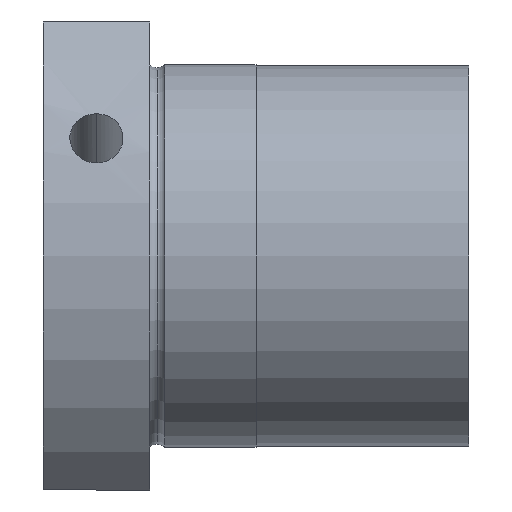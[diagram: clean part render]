
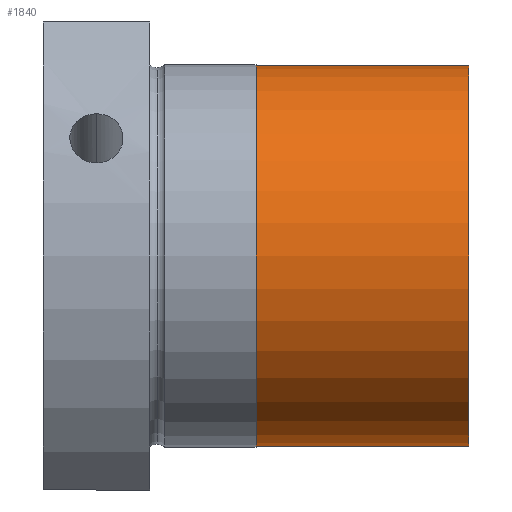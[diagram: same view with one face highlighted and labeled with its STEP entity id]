
A CAD part, front view. The second image highlights one B-rep face of the part: STEP entity #1840.
In plain terms, the highlighted cylindrical face has radius 17.9 mm (diameter 35.8 mm), a partial arc.
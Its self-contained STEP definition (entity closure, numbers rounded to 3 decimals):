
#88 = ORIENTED_EDGE ( 'NONE', *, *, #1490, .F. ) ;
#161 = VECTOR ( 'NONE', #265, 1000. ) ;
#262 = CARTESIAN_POINT ( 'NONE',  ( 0.111, 0., 17.9 ) ) ;
#265 = DIRECTION ( 'NONE',  ( -1., 0., 0. ) ) ;
#455 = VERTEX_POINT ( 'NONE', #1098 ) ;
#473 = DIRECTION ( 'NONE',  ( -1., 0., 0. ) ) ;
#485 = CARTESIAN_POINT ( 'NONE',  ( 20.111, 0., 17.9 ) ) ;
#514 = CARTESIAN_POINT ( 'NONE',  ( -100.792, 0., 17.9 ) ) ;
#679 = DIRECTION ( 'NONE',  ( -1., 0., 0. ) ) ;
#700 = DIRECTION ( 'NONE',  ( 0., 0., 1. ) ) ;
#708 = EDGE_CURVE ( 'NONE', #2669, #2745, #2649, .T. ) ;
#1098 = CARTESIAN_POINT ( 'NONE',  ( 0.111, 0., -17.9 ) ) ;
#1167 = DIRECTION ( 'NONE',  ( -1., 0., 0. ) ) ;
#1201 = VECTOR ( 'NONE', #2359, 1000. ) ;
#1376 = ORIENTED_EDGE ( 'NONE', *, *, #2389, .F. ) ;
#1452 = EDGE_CURVE ( 'NONE', #2353, #2669, #1878, .T. ) ;
#1462 = ORIENTED_EDGE ( 'NONE', *, *, #1452, .T. ) ;
#1490 = EDGE_CURVE ( 'NONE', #2353, #455, #1814, .T. ) ;
#1644 = CARTESIAN_POINT ( 'NONE',  ( -100.792, 0., 0. ) ) ;
#1647 = CARTESIAN_POINT ( 'NONE',  ( 20.111, 0., -17.9 ) ) ;
#1667 = CARTESIAN_POINT ( 'NONE',  ( -100.792, 0., -17.9 ) ) ;
#1672 = CYLINDRICAL_SURFACE ( 'NONE', #2802, 17.9 ) ;
#1676 = ORIENTED_EDGE ( 'NONE', *, *, #708, .T. ) ;
#1814 = LINE ( 'NONE', #1667, #1201 ) ;
#1840 = ADVANCED_FACE ( 'NONE', ( #2987 ), #1672, .T. ) ;
#1878 = CIRCLE ( 'NONE', #1901, 17.9 ) ;
#1880 = CARTESIAN_POINT ( 'NONE',  ( 20.111, 0., 0. ) ) ;
#1901 = AXIS2_PLACEMENT_3D ( 'NONE', #1880, #473, #2115 ) ;
#2104 = EDGE_LOOP ( 'NONE', ( #88, #1462, #1676, #1376 ) ) ;
#2115 = DIRECTION ( 'NONE',  ( 0., 0., 1. ) ) ;
#2353 = VERTEX_POINT ( 'NONE', #1647 ) ;
#2359 = DIRECTION ( 'NONE',  ( -1., 0., 0. ) ) ;
#2389 = EDGE_CURVE ( 'NONE', #455, #2745, #2458, .T. ) ;
#2458 = CIRCLE ( 'NONE', #3050, 17.9 ) ;
#2546 = CARTESIAN_POINT ( 'NONE',  ( 0.111, 0., 0. ) ) ;
#2649 = LINE ( 'NONE', #514, #161 ) ;
#2669 = VERTEX_POINT ( 'NONE', #485 ) ;
#2745 = VERTEX_POINT ( 'NONE', #262 ) ;
#2783 = DIRECTION ( 'NONE',  ( 0., 0., 1. ) ) ;
#2802 = AXIS2_PLACEMENT_3D ( 'NONE', #1644, #679, #700 ) ;
#2987 = FACE_OUTER_BOUND ( 'NONE', #2104, .T. ) ;
#3050 = AXIS2_PLACEMENT_3D ( 'NONE', #2546, #1167, #2783 ) ;
